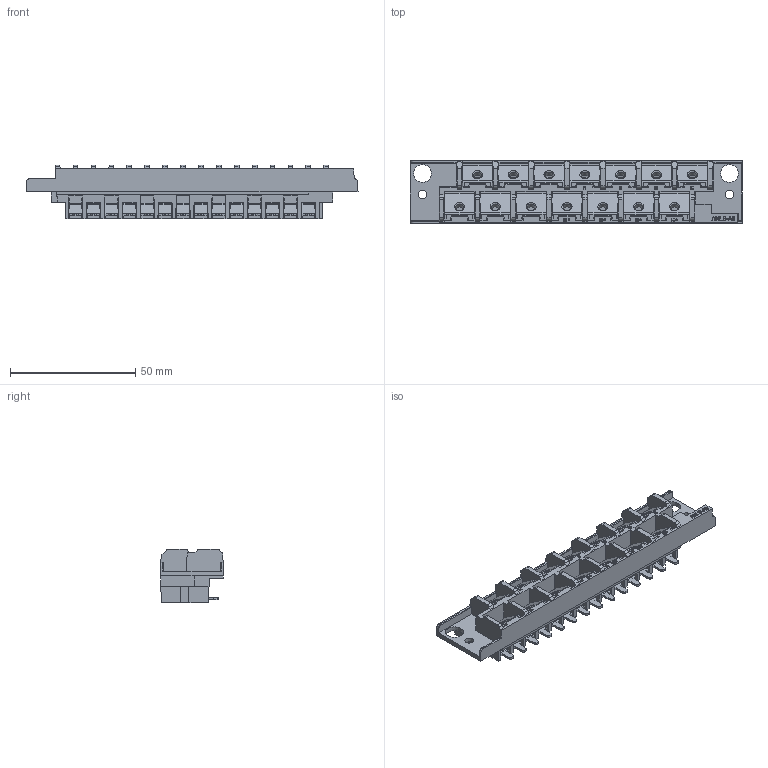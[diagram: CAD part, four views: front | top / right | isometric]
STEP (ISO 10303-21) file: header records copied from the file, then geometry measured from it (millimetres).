
FILE_DESCRIPTION(/* description */ (''),/* implementation_level */ '2;1');
FILE_NAME(/* name */ 'C:\Users\jondi\Desktop\FLEX 3D STP\A9.stp',/* time_stamp */ '2021-03-10T12:39:25-06:00',/* author */ ('jondi'),/* organization */ (''),/* preprocessor_version */ 'ST-DEVELOPER v17.2',/* originating_system */ 'Autodesk Inventor 2019',/* authorisation */ '');
FILE_SCHEMA (('AUTOMOTIVE_DESIGN { 1 0 10303 214 3 1 1 }'));
Length unit declared in the file: inch
Products named in the file (7): A9; 9579230120; 9579230001; CT Connector Housing - Dual Row; Basler CT Metal; Basler CT Metal4; 9579230009
Assembly tree (18 placements, depth 4):
  A9
    9579230120
      9579230001
        CT Connector Housing - Dual Row
      Basler CT Metal  x7
      Basler CT Metal4  x7
    9579230009
Bounding box: 132.55 x 24.98 x 21.46 mm (x, y, z)
Volume: 20011.5 mm3; surface area: 32474.9 mm2
Topology: 42 solids, 42 shells, 1802 faces, 4877 edges, 3139 vertices
Faces by surface type: plane 1387, cylinder 266, bspline 89, cone 32, torus 28
Full cylindrical faces by diameter (mm): 0.762 x4, 3.302 x14, 4.369 x14
Entity records: 36408 total; most frequent: CARTESIAN_POINT 7477, ORIENTED_EDGE 6250, DIRECTION 5416, EDGE_CURVE 3125, LINE 2624, VECTOR 2624, VERTEX_POINT 2023, AXIS2_PLACEMENT_3D 1396
